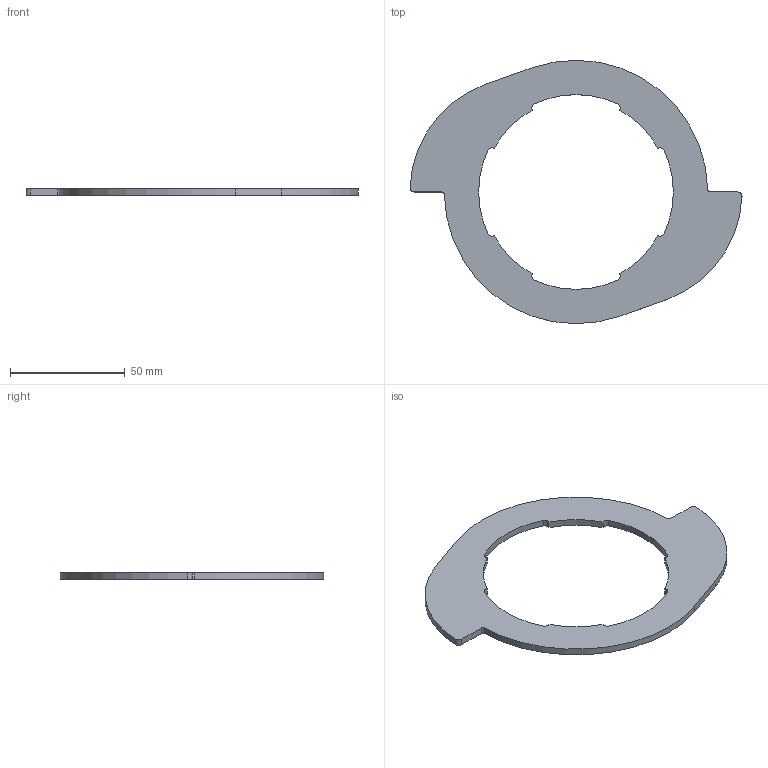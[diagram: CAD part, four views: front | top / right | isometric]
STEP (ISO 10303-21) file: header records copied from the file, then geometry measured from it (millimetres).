
FILE_DESCRIPTION((''),'2;1');
FILE_NAME('288095','2022-12-13T14:03:58',('vmorco'),(''),'CREO PARAMETRIC BY PTC INC, 2020454','CREO PARAMETRIC BY PTC INC, 2020454','');
FILE_SCHEMA(('AUTOMOTIVE_DESIGN { 1 0 10303 214 1 1 1 1 }'));
Length unit declared in the file: millimetre
Products named in the file (1): 288095
Bounding box: 144.91 x 115 x 3 mm (x, y, z)
Volume: 18607.5 mm3; surface area: 14456 mm2
Topology: 1 solids, 1 shells, 30 faces, 84 edges, 56 vertices
Faces by surface type: cylinder 24, plane 6
Entity records: 1071 total; most frequent: DIRECTION 192, CARTESIAN_POINT 172, ORIENTED_EDGE 168, EDGE_CURVE 84, AXIS2_PLACEMENT_3D 78, VERTEX_POINT 56, CIRCLE 48, VECTOR 36
